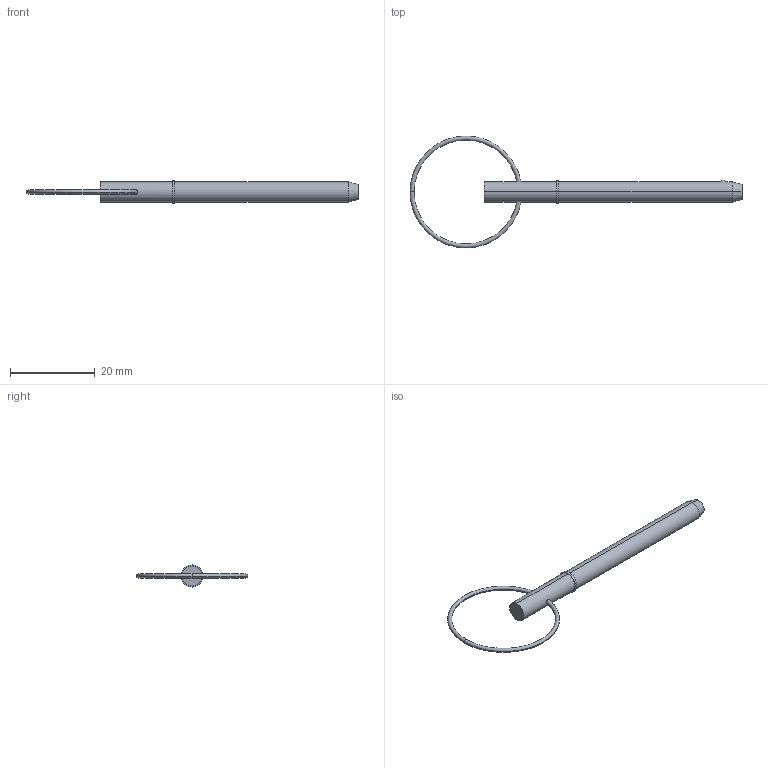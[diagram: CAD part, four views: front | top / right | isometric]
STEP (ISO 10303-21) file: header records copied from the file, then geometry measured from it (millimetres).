
FILE_DESCRIPTION (( 'STEP AP203' ), '1' );
FILE_NAME ('33014.W1815.step', '2024-11-04T08:22:19', ( '' ), ( '' ), 'SwSTEP 2.0', 'SolidWorks 2019', '' );
FILE_SCHEMA (( 'CONFIG_CONTROL_DESIGN' ));
Length unit declared in the file: millimetre
Products named in the file (3): 33014.W1815; Part1_33014.W1815; Part2_33014.W1815
Assembly tree (2 placements, depth 2):
  33014.W1815
    Part1_33014.W1815
    Part2_33014.W1815
Bounding box: 78.16 x 26.35 x 5.24 mm (x, y, z)
Volume: 1123.5 mm3; surface area: 1194.2 mm2
Topology: 2 solids, 2 shells, 22 faces, 43 edges, 26 vertices
Faces by surface type: torus 8, cylinder 6, plane 4, sphere 2, cone 2
Entity records: 939 total; most frequent: CARTESIAN_POINT 162, DIRECTION 120, ORIENTED_EDGE 86, AXIS2_PLACEMENT_3D 56, EDGE_CURVE 43, CIRCLE 29, EDGE_LOOP 27, VERTEX_POINT 26
